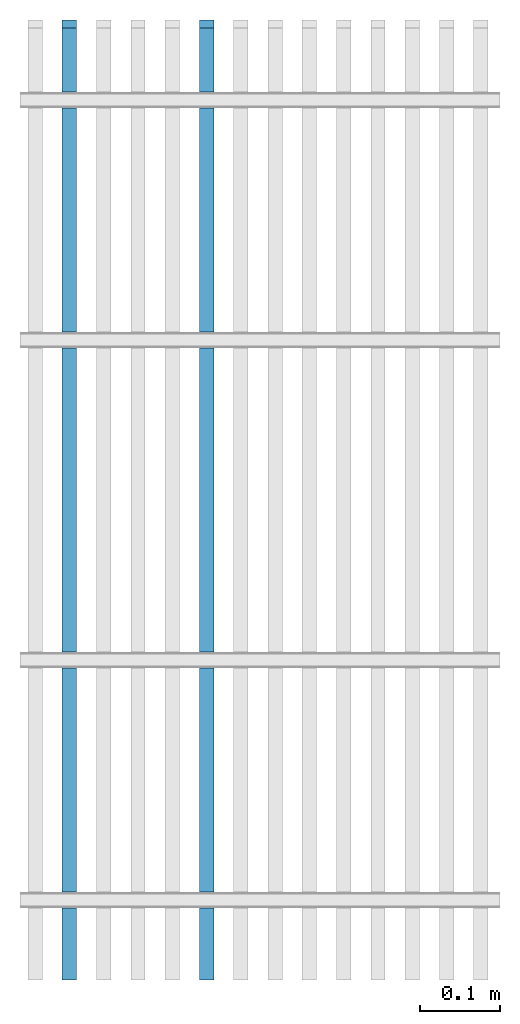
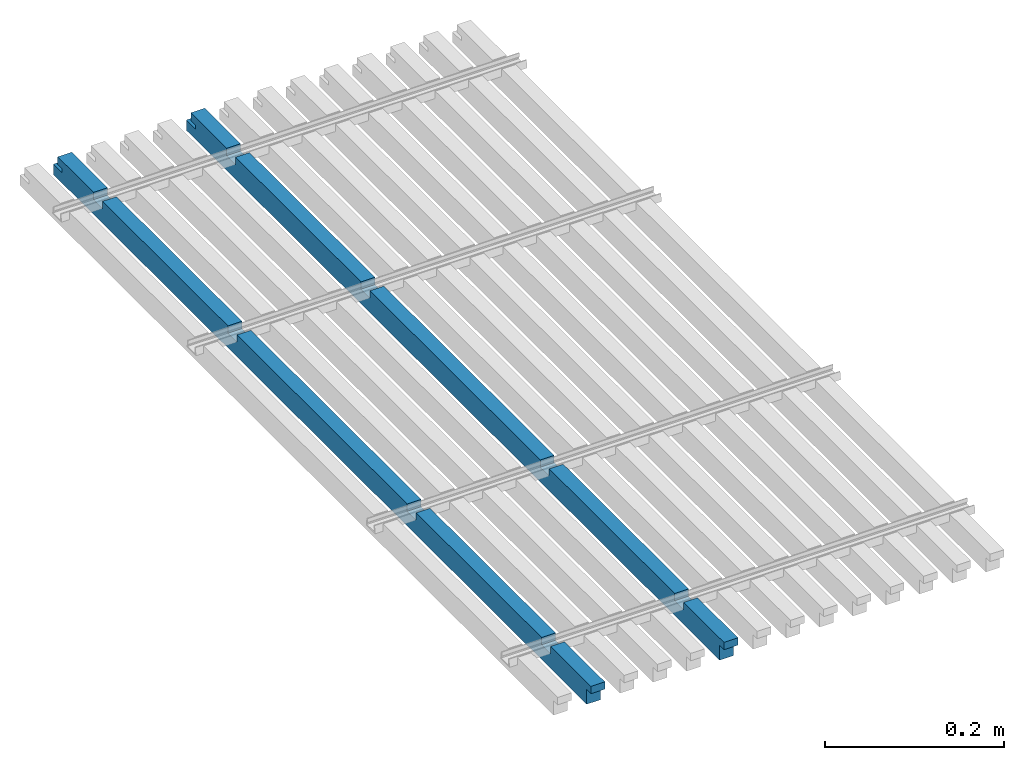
# One storey, part 3 of 3: 2 walls.
"""IFC2X3 building model written with IfcOpenShell, lengths in millimetres."""

from ifc_helpers import new_model, entity, si_unit, converted_unit, money_unit, direction, frame, origin_with_axes, place, context, subcontext, project, spatial, polyline, outline, extrude, boolean, faceted_brep, material, layer, layer_set, layer_usage, type_object, element, save


model = new_model("IFC2X3")

# Units and contexts
model_context = context("Model", 3, precision=1e-05, world=origin_with_axes(), true_north=direction((0.0, 1.0)))
body_context = subcontext(model_context, "Body", "Model", "MODEL_VIEW")
ifc_project = project(units=[si_unit("LENGTHUNIT", "METRE", prefix="MILLI"), si_unit("AREAUNIT", "SQUARE_METRE"), si_unit("VOLUMEUNIT", "CUBIC_METRE"), converted_unit("PLANEANGLEUNIT", "DEGREE", entity("IfcPlaneAngleMeasure", 0.0174532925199), si_unit("PLANEANGLEUNIT", "RADIAN"), dimensions=[0, 0, 0, 0, 0, 0, 0]), si_unit("SOLIDANGLEUNIT", "STERADIAN"), money_unit("AUD"), si_unit("TIMEUNIT", "SECOND"), si_unit("MASSUNIT", "GRAM"), si_unit("THERMODYNAMICTEMPERATUREUNIT", "DEGREE_CELSIUS"), si_unit("LUMINOUSINTENSITYUNIT", "LUMEN")], contexts=[model_context])

# Site, building, storey
site_placement = place(None, origin_with_axes())
site = spatial("IfcSite", under=ifc_project, at=site_placement, Name="Site", CompositionType="ELEMENT")
building_placement = place(site_placement, origin_with_axes())
building = spatial("IfcBuilding", under=site, at=building_placement, Name="Building", CompositionType="ELEMENT")
storey_placement = place(building_placement, origin_with_axes())
storey = spatial("IfcBuildingStorey", under=building, at=storey_placement, Name="GROUND", CompositionType="ELEMENT", Elevation=0.0)

# Walls
ifc_material = material(Name="Timber")
ifc_layer = layer(ifc_material, 18.0, ventilated="UNKNOWN")
ifc_layer_set = layer_set([ifc_layer], Name="Timber 18")
ifc_layer_usage_1 = layer_usage(ifc_layer_set, "AXIS2", "POSITIVE", 0.0)
wall_type = type_object("IfcWallType", Name="Timber 18", PredefinedType="NOTDEFINED")
wall_1_placement = place(storey_placement, frame((244.71, 0.0, 0.0), z_axis=(0.0, 0.0, 1.0), x_axis=(0.0, 1.0, 0.0)))
element("IfcWallStandardCase", 1, at=wall_1_placement, inside=storey, type_object=wall_type, material=ifc_layer_usage_1, Name="WALL-01", context=body_context, shape_type="CSG", body=[
    boolean("DIFFERENCE", boolean("DIFFERENCE", boolean("DIFFERENCE", boolean("DIFFERENCE", boolean("DIFFERENCE", boolean("DIFFERENCE", extrude(outline(polyline([(0.0, 0.0), (1200.0, 0.0), (1200.0, 18.0), (0.0, 18.0), (0.0, 0.0)])), origin_with_axes(), (0.0, 0.0, 1.0), 30.0), faceted_brep([(9.5, 0.0, 20.0), (0.0, 0.0, 20.0), (0.0, 0.0, 0.0), (9.5, 0.0, 0.0), (9.5, 18.0, 20.0), (0.0, 18.0, 20.0), (0.0, 18.0, 0.0), (9.5, 18.0, 0.0)], [[[0, 1, 2, 3]], [[1, 0, 4, 5]], [[1, 5, 6, 2]], [[7, 3, 2, 6]], [[0, 3, 7, 4]], [[4, 7, 6, 5]]])), faceted_brep([(90.0, 0.0, 20.0), (110.0, 0.0, 20.0), (110.0, 0.0, 30.0), (90.0, 0.0, 30.0), (90.0, 18.0, 20.0), (110.0, 18.0, 20.0), (110.0, 18.0, 30.0), (90.0, 18.0, 30.0)], [[[0, 1, 2, 3]], [[1, 0, 4, 5]], [[6, 2, 1, 5]], [[7, 3, 2, 6]], [[0, 3, 7, 4]], [[4, 7, 6, 5]]])), faceted_brep([(390.0, 0.0, 20.0), (410.0, 0.0, 20.0), (410.0, 0.0, 30.0), (390.0, 0.0, 30.0), (390.0, 18.0, 20.0), (410.0, 18.0, 20.0), (410.0, 18.0, 30.0), (390.0, 18.0, 30.0)], [[[0, 1, 2, 3]], [[1, 0, 4, 5]], [[6, 2, 1, 5]], [[7, 3, 2, 6]], [[0, 3, 7, 4]], [[4, 7, 6, 5]]])), faceted_brep([(790.0, 0.0, 20.0), (810.0, 0.0, 20.0), (810.0, 0.0, 30.0), (790.0, 0.0, 30.0), (790.0, 18.0, 20.0), (810.0, 18.0, 20.0), (810.0, 18.0, 30.0), (790.0, 18.0, 30.0)], [[[0, 1, 2, 3]], [[1, 0, 4, 5]], [[6, 2, 1, 5]], [[7, 3, 2, 6]], [[0, 3, 7, 4]], [[4, 7, 6, 5]]])), faceted_brep([(1090.0, 0.0, 20.0), (1110.0, 0.0, 20.0), (1110.0, 0.0, 30.0), (1090.0, 0.0, 30.0), (1090.0, 18.0, 20.0), (1110.0, 18.0, 20.0), (1110.0, 18.0, 30.0), (1090.0, 18.0, 30.0)], [[[0, 1, 2, 3]], [[1, 0, 4, 5]], [[6, 2, 1, 5]], [[7, 3, 2, 6]], [[0, 3, 7, 4]], [[4, 7, 6, 5]]])), faceted_brep([(1180.0, 0.0, 19.5), (1180.0, 0.0, 14.0), (1200.0, 0.0, 14.0), (1200.0, 0.0, 30.0), (1190.0, 0.0, 30.0), (1190.0, 0.0, 19.5), (1180.0, 18.0, 19.5), (1180.0, 18.0, 14.0), (1200.0, 18.0, 14.0), (1200.0, 18.0, 30.0), (1190.0, 18.0, 30.0), (1190.0, 18.0, 19.5)], [[[0, 1, 2, 3, 4, 5]], [[1, 0, 6, 7]], [[8, 2, 1, 7]], [[2, 8, 9, 3]], [[10, 4, 3, 9]], [[5, 4, 10, 11]], [[0, 5, 11, 6]], [[11, 10, 9, 8, 7, 6]]])),
])
ifc_layer_usage_2 = layer_usage(ifc_layer_set, "AXIS2", "POSITIVE", 0.0)
wall_2_placement = place(storey_placement, frame((73.27, 0.0, 0.0), z_axis=(0.0, 0.0, 1.0), x_axis=(0.0, 1.0, 0.0)))
element("IfcWallStandardCase", 2, at=wall_2_placement, inside=storey, type_object=wall_type, material=ifc_layer_usage_2, Name="WALL-01", context=body_context, shape_type="CSG", body=[
    boolean("DIFFERENCE", boolean("DIFFERENCE", boolean("DIFFERENCE", boolean("DIFFERENCE", boolean("DIFFERENCE", boolean("DIFFERENCE", extrude(outline(polyline([(0.0, 0.0), (1200.0, 0.0), (1200.0, 18.0), (0.0, 18.0), (0.0, 0.0)])), origin_with_axes(), (0.0, 0.0, 1.0), 30.0), faceted_brep([(9.5, 0.0, 20.0), (0.0, 0.0, 20.0), (0.0, 0.0, 0.0), (9.5, 0.0, 0.0), (9.5, 18.0, 20.0), (0.0, 18.0, 20.0), (0.0, 18.0, 0.0), (9.5, 18.0, 0.0)], [[[0, 1, 2, 3]], [[1, 0, 4, 5]], [[1, 5, 6, 2]], [[7, 3, 2, 6]], [[0, 3, 7, 4]], [[4, 7, 6, 5]]])), faceted_brep([(90.0, 0.0, 20.0), (110.0, 0.0, 20.0), (110.0, 0.0, 30.0), (90.0, 0.0, 30.0), (90.0, 18.0, 20.0), (110.0, 18.0, 20.0), (110.0, 18.0, 30.0), (90.0, 18.0, 30.0)], [[[0, 1, 2, 3]], [[1, 0, 4, 5]], [[6, 2, 1, 5]], [[7, 3, 2, 6]], [[0, 3, 7, 4]], [[4, 7, 6, 5]]])), faceted_brep([(390.0, 0.0, 20.0), (410.0, 0.0, 20.0), (410.0, 0.0, 30.0), (390.0, 0.0, 30.0), (390.0, 18.0, 20.0), (410.0, 18.0, 20.0), (410.0, 18.0, 30.0), (390.0, 18.0, 30.0)], [[[0, 1, 2, 3]], [[1, 0, 4, 5]], [[6, 2, 1, 5]], [[7, 3, 2, 6]], [[0, 3, 7, 4]], [[4, 7, 6, 5]]])), faceted_brep([(790.0, 0.0, 20.0), (810.0, 0.0, 20.0), (810.0, 0.0, 30.0), (790.0, 0.0, 30.0), (790.0, 18.0, 20.0), (810.0, 18.0, 20.0), (810.0, 18.0, 30.0), (790.0, 18.0, 30.0)], [[[0, 1, 2, 3]], [[1, 0, 4, 5]], [[6, 2, 1, 5]], [[7, 3, 2, 6]], [[0, 3, 7, 4]], [[4, 7, 6, 5]]])), faceted_brep([(1090.0, 0.0, 20.0), (1110.0, 0.0, 20.0), (1110.0, 0.0, 30.0), (1090.0, 0.0, 30.0), (1090.0, 18.0, 20.0), (1110.0, 18.0, 20.0), (1110.0, 18.0, 30.0), (1090.0, 18.0, 30.0)], [[[0, 1, 2, 3]], [[1, 0, 4, 5]], [[6, 2, 1, 5]], [[7, 3, 2, 6]], [[0, 3, 7, 4]], [[4, 7, 6, 5]]])), faceted_brep([(1180.0, 0.0, 19.5), (1180.0, 0.0, 14.0), (1200.0, 0.0, 14.0), (1200.0, 0.0, 30.0), (1190.0, 0.0, 30.0), (1190.0, 0.0, 19.5), (1180.0, 18.0, 19.5), (1180.0, 18.0, 14.0), (1200.0, 18.0, 14.0), (1200.0, 18.0, 30.0), (1190.0, 18.0, 30.0), (1190.0, 18.0, 19.5)], [[[0, 1, 2, 3, 4, 5]], [[1, 0, 6, 7]], [[8, 2, 1, 7]], [[2, 8, 9, 3]], [[10, 4, 3, 9]], [[5, 4, 10, 11]], [[0, 5, 11, 6]], [[11, 10, 9, 8, 7, 6]]])),
])

save(model, "model.ifc")
